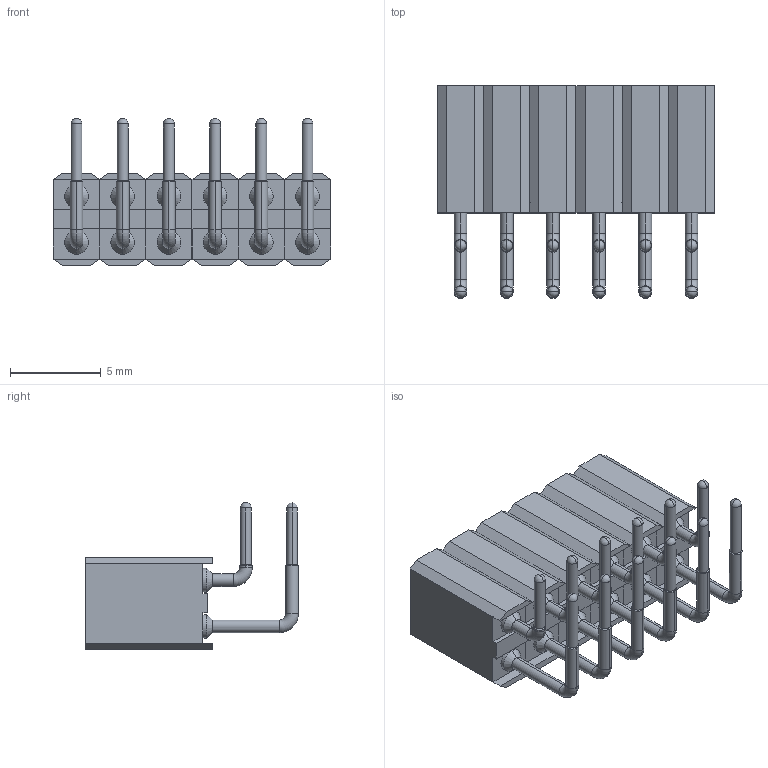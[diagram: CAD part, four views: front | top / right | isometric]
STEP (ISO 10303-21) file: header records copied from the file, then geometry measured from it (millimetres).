
FILE_DESCRIPTION (( 'STEP AP203' ), '1' );
FILE_NAME ('PM254-2-06-W-7.0-XX-C(L11.65) (2.54邧齬 齬譫 俔埴渀-HCTL).STEP', '2025-08-08T09:39:49', ( '' ), ( '' ), 'SwSTEP 2.0', 'SolidWorks 2025', '' );
FILE_SCHEMA (( 'CONFIG_CONTROL_DESIGN' ));
Length unit declared in the file: millimetre
Products named in the file (1): PM254-2-06-W-7.0-XX-C(L11.65) (2.54双排 排母 弯圆针-HCTL)
Bounding box: 15.24 x 11.7 x 8.08 mm (x, y, z)
Volume: 528.7 mm3; surface area: 1112.1 mm2
Topology: 6 solids, 6 shells, 408 faces, 924 edges, 552 vertices
Faces by surface type: cylinder 144, plane 144, cone 72, sphere 24, torus 24
Entity records: 11159 total; most frequent: DIRECTION 2114, CARTESIAN_POINT 1837, ORIENTED_EDGE 1776, EDGE_CURVE 888, AXIS2_PLACEMENT_3D 817, VERTEX_POINT 540, VECTOR 480, LINE 480
